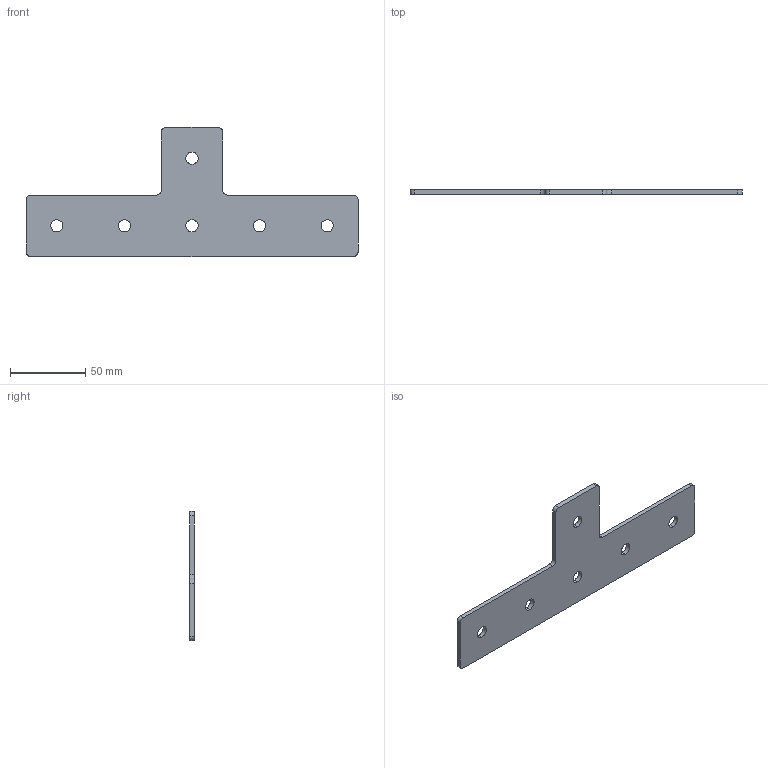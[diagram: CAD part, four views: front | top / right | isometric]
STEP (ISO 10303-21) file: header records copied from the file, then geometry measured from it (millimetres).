
FILE_DESCRIPTION (( 'STEP AP203' ), '1' );
FILE_NAME ('ﾒ-6-45.STEP', '2016-07-22T10:15:45', ( '' ), ( '' ), 'SwSTEP 2.0', 'SolidWorks 2014', '' );
FILE_SCHEMA (( 'CONFIG_CONTROL_DESIGN' ));
Length unit declared in the file: millimetre
Products named in the file (1): ﾒ-6-45
Bounding box: 221 x 3 x 86 mm (x, y, z)
Surface area: 23437.6 mm2 (no closed solid volume)
Topology: 0 solids, 1 shells, 30 faces, 84 edges, 56 vertices
Faces by surface type: cylinder 20, plane 10
Entity records: 1089 total; most frequent: DIRECTION 186, CARTESIAN_POINT 171, ORIENTED_EDGE 168, EDGE_CURVE 84, AXIS2_PLACEMENT_3D 71, VERTEX_POINT 56, LINE 44, VECTOR 44
